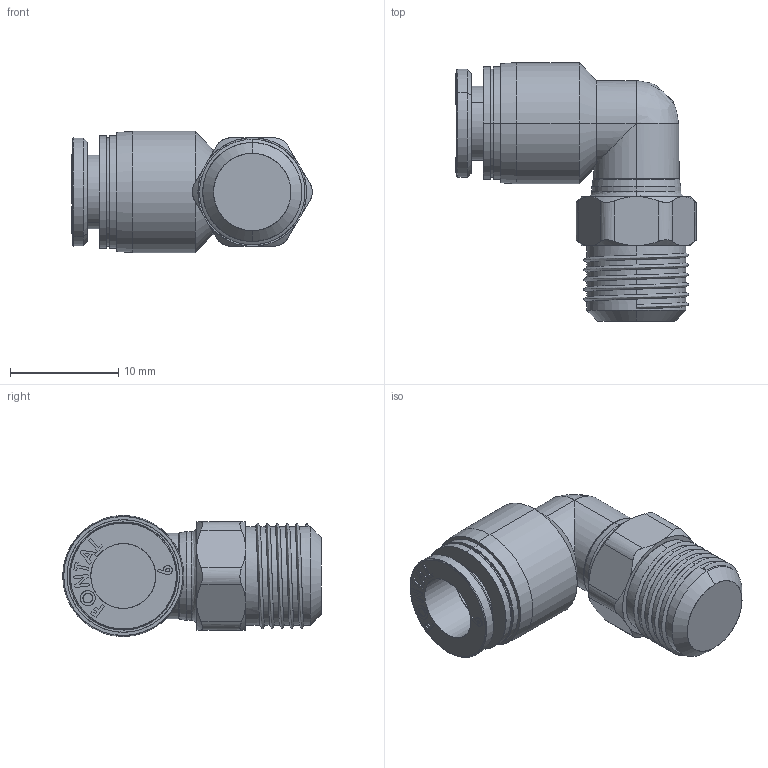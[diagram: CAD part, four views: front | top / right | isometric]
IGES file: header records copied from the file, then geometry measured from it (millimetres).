
Start section: SolidWorks IGES file using analytic representation for surfaces
Global section: file name: D:\Custom\3D繪製\ADDITIONAL\FPL\FPL6-01.IGS,1; native system: 5HSolidWorks 2014; preprocessor: SolidWorks 2014; author: Chieh_Lu; date: 160115.050521; units: millimetre
Bounding box: 22.22 x 23.9 x 11.2 mm (x, y, z)
Surface area: 1809.7 mm2 (no closed solid volume)
Topology: 0 solids, 0 shells, 171 faces, 2116 edges, 2116 vertices
Faces by surface type: bspline 104, revolution 67
